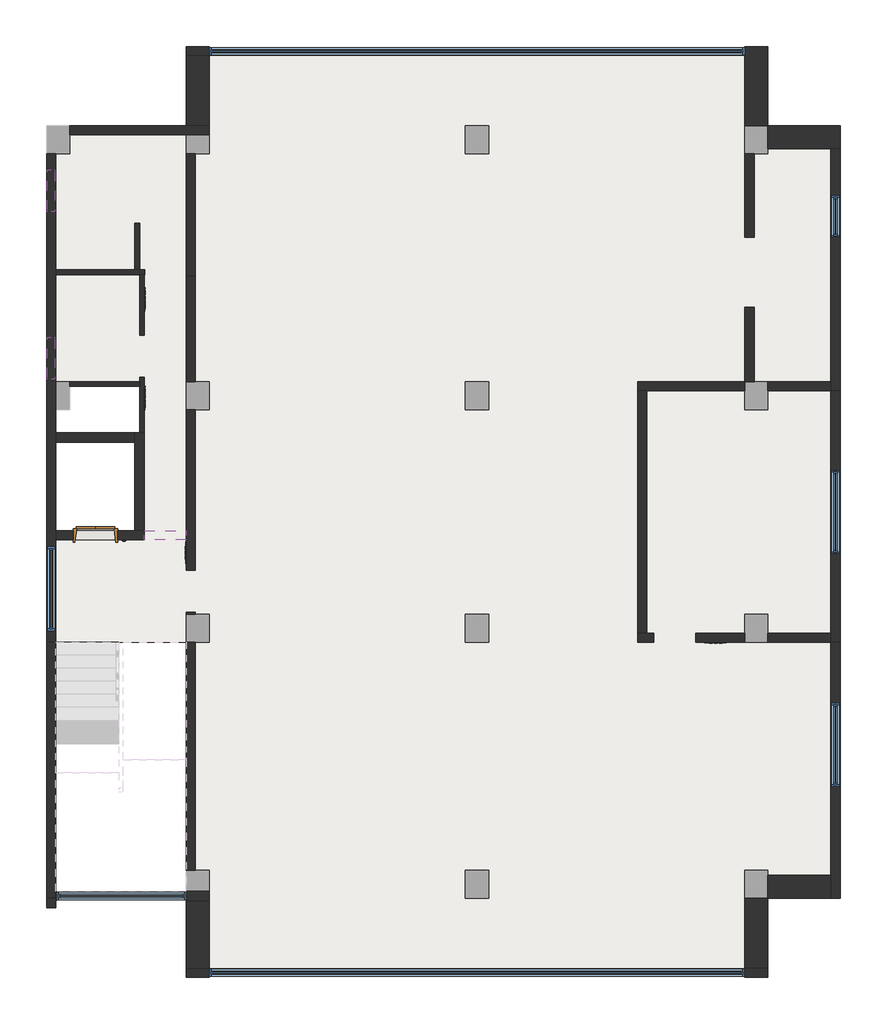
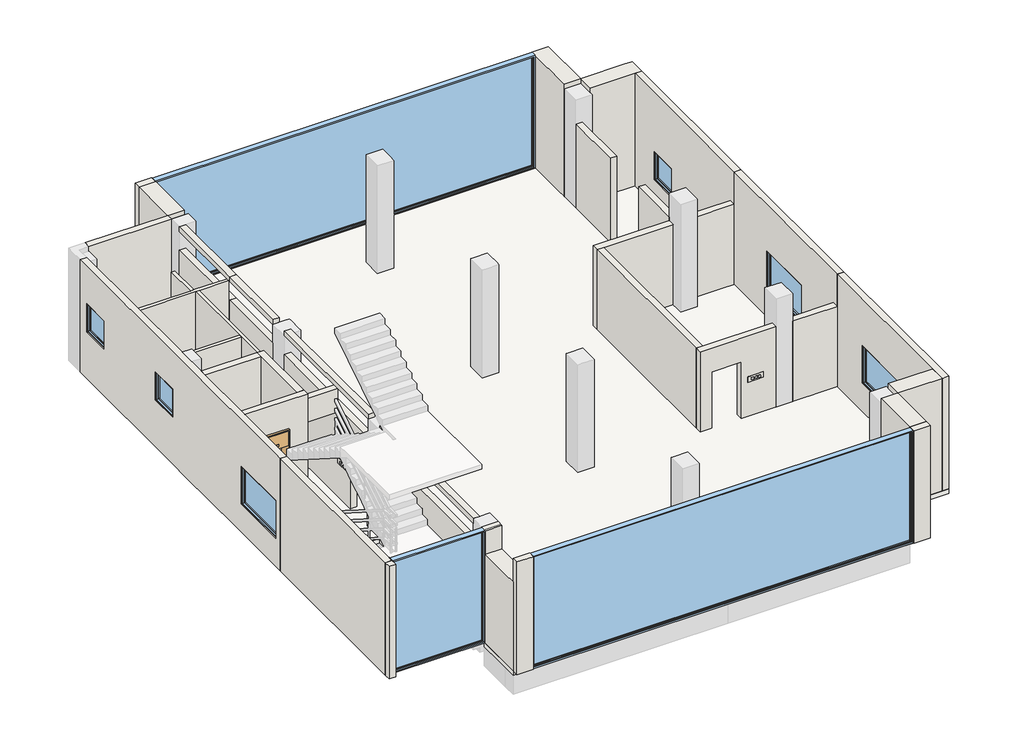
# One storey, part 1 of 3: 39 walls, 9 windows, 1 door, 1 slab.
"""IFC4 building model written with IfcOpenShell, lengths in millimetres."""

from ifc_helpers import new_model, si_unit, frame, origin, place, context, project, spatial, polyline, outline, extrude, faceted_brep, transform, mapped, element, save
from components import door_097e9757, window_16c43cb3, window_f2f41d25, window_07c90ac9, window_8a8d6591, window_3f7671e2

model = new_model("IFC4")

# Units and contexts
model_context = context("Model", 3, world=origin())
ifc_project = project(units=[si_unit("LENGTHUNIT", "METRE", prefix="MILLI")], contexts=[model_context])

# Site, building, storey
site = spatial("IfcSite", under=ifc_project)
building = spatial("IfcBuilding", under=site)
storey = spatial("IfcBuildingStorey", under=building, Name="3층", Elevation=7500.0)

# Door
placement = place(None, origin())
door_shape = door_097e9757(model_context)
element("IfcDoor", 1, ObjectType="XX111-승객용 엘리베이터 (다용도, 800KG) 상판 출입구800 : 엘리베이터 800", at=placement, inside=storey, context=model_context, shape_type="MappedRepresentation", body=[
    mapped(door_shape, transform((925.0, 7500.0, 7600.0), x_axis=(-1.0, 0.0, 0.0), y_axis=(0.0, -1.0, 0.0), z_axis=(0.0, 0.0, 1.0))),
])

# Slab
element("IfcSlab", 2, ObjectType="SL100-구조 바닥 150", at=placement, inside=storey, context=model_context, shape_type="Brep", body=[
    faceted_brep([(-50.0, 5200.0, 7350.0), (-50.0, 7400.0, 7350.0), (1850.0, 7400.0, 7350.0), (1850.0, 7600.0, 7350.0), (1850.0, 9700.0, 7350.0), (1750.0, 9700.0, 7350.0), (1750.0, 10700.0, 7350.0), (250.0, 10700.0, 7350.0), (250.0, 10800.0, 7350.0), (-50.0, 10800.0, 7350.0), (-50.0, 15700.0, 7350.0), (250.0, 15700.0, 7350.0), (250.0, 16100.0, 7350.0), (250.0, 16300.0, 7350.0), (2750.0, 16300.0, 7350.0), (2750.0, 15700.0, 7350.0), (3150.0, 15700.0, 7350.0), (3250.0, 15700.0, 7350.0), (3250.0, 15900.0, 7350.0), (3250.0, 16300.0, 7350.0), (2750.0, 17800.0, 7350.0), (3250.0, 17800.0, 7350.0), (8850.0, 17800.0, 7350.0), (14750.0, 17800.0, 7350.0), (15250.0, 17800.0, 7350.0), (15250.0, 16300.0, 7350.0), (14750.0, 16300.0, 7350.0), (14750.0, 15900.0, 7350.0), (14750.0, 15700.0, 7350.0), (15250.0, 15700.0, 7350.0), (16800.0, 16300.0, 7350.0), (16800.0, -300.0, 7350.0), (15250.0, -300.0, 7350.0), (15250.0, 300.0, 7350.0), (14850.0, 300.0, 7350.0), (14750.0, 300.0, 7350.0), (14750.0, 100.0, 7350.0), (14750.0, -300.0, 7350.0), (15250.0, -1800.0, 7350.0), (14750.0, -1800.0, 7350.0), (9250.0, -1800.0, 7350.0), (2750.0, -1800.0, 7350.0), (2750.0, -1400.0, 7350.0), (2750.0, -300.0, 7350.0), (3150.0, -300.0, 7350.0), (3250.0, -300.0, 7350.0), (3250.0, 100.0, 7350.0), (3250.0, 300.0, 7350.0), (3150.0, 300.0, 7350.0), (2750.0, 300.0, 7350.0), (2750.0, 5200.0, 7350.0), (3150.0, 5200.0, 7350.0), (3250.0, 5200.0, 7350.0), (3250.0, 5300.0, 7350.0), (3250.0, 5700.0, 7350.0), (3250.0, 5800.0, 7350.0), (3150.0, 5800.0, 7350.0), (2750.0, 5800.0, 7350.0), (2750.0, 10800.0, 7350.0), (2750.0, 10200.0, 7350.0), (3150.0, 10200.0, 7350.0), (3250.0, 10200.0, 7350.0), (3250.0, 10300.0, 7350.0), (3250.0, 10700.0, 7350.0), (3250.0, 10800.0, 7350.0), (3150.0, 10800.0, 7350.0), (8750.0, 300.0, 7350.0), (8750.0, 100.0, 7350.0), (8750.0, -300.0, 7350.0), (8850.0, -300.0, 7350.0), (9250.0, -300.0, 7350.0), (9250.0, 100.0, 7350.0), (9250.0, 300.0, 7350.0), (8850.0, 300.0, 7350.0), (8750.0, 5800.0, 7350.0), (8750.0, 5700.0, 7350.0), (8750.0, 5300.0, 7350.0), (8750.0, 5200.0, 7350.0), (8850.0, 5200.0, 7350.0), (9250.0, 5200.0, 7350.0), (9250.0, 5300.0, 7350.0), (9250.0, 5700.0, 7350.0), (9250.0, 5800.0, 7350.0), (8850.0, 5800.0, 7350.0), (14750.0, 5800.0, 7350.0), (14750.0, 5700.0, 7350.0), (14750.0, 5300.0, 7350.0), (14750.0, 5200.0, 7350.0), (14850.0, 5200.0, 7350.0), (15250.0, 5200.0, 7350.0), (15250.0, 5300.0, 7350.0), (15250.0, 5700.0, 7350.0), (15250.0, 5800.0, 7350.0), (8750.0, 10800.0, 7350.0), (8750.0, 10700.0, 7350.0), (8750.0, 10300.0, 7350.0), (8750.0, 10200.0, 7350.0), (8850.0, 10200.0, 7350.0), (9250.0, 10200.0, 7350.0), (9250.0, 10300.0, 7350.0), (9250.0, 10700.0, 7350.0), (9250.0, 10800.0, 7350.0), (8850.0, 10800.0, 7350.0), (14750.0, 10800.0, 7350.0), (14750.0, 10700.0, 7350.0), (14750.0, 10300.0, 7350.0), (14750.0, 10200.0, 7350.0), (15250.0, 10200.0, 7350.0), (15250.0, 10300.0, 7350.0), (15250.0, 10700.0, 7350.0), (15250.0, 10800.0, 7350.0), (8750.0, 16300.0, 7350.0), (8750.0, 15900.0, 7350.0), (8750.0, 15700.0, 7350.0), (8850.0, 15700.0, 7350.0), (9250.0, 15700.0, 7350.0), (9250.0, 15900.0, 7350.0), (9250.0, 16300.0, 7350.0), (8850.0, 16300.0, 7350.0), (-50.0, 7400.0, 7500.0), (-50.0, 5200.0, 7500.0), (2750.0, 5200.0, 7500.0), (2750.0, 5800.0, 7500.0), (3250.0, 5800.0, 7500.0), (3250.0, 5200.0, 7500.0), (2750.0, 300.0, 7500.0), (3250.0, 300.0, 7500.0), (3250.0, -300.0, 7500.0), (2750.0, -300.0, 7500.0), (2750.0, -1800.0, 7500.0), (15250.0, -1800.0, 7500.0), (15250.0, -300.0, 7500.0), (14750.0, -300.0, 7500.0), (14750.0, 200.0, 7500.0), (14750.0, 300.0, 7500.0), (15250.0, 300.0, 7500.0), (15250.0, 200.0, 7500.0), (16800.0, -300.0, 7500.0), (16800.0, 16300.0, 7500.0), (15250.0, 16300.0, 7500.0), (15250.0, 15700.0, 7500.0), (14750.0, 15700.0, 7500.0), (14750.0, 16300.0, 7500.0), (15250.0, 17800.0, 7500.0), (2750.0, 17800.0, 7500.0), (2750.0, 16300.0, 7500.0), (3250.0, 16300.0, 7500.0), (3250.0, 16100.0, 7500.0), (3250.0, 15700.0, 7500.0), (2750.0, 15700.0, 7500.0), (2750.0, 16100.0, 7500.0), (250.0, 16300.0, 7500.0), (250.0, 15700.0, 7500.0), (-50.0, 15700.0, 7500.0), (-50.0, 10800.0, 7500.0), (250.0, 10800.0, 7500.0), (250.0, 10700.0, 7500.0), (1750.0, 10700.0, 7500.0), (1750.0, 9700.0, 7500.0), (1850.0, 9700.0, 7500.0), (1850.0, 7600.0, 7500.0), (1850.0, 7400.0, 7500.0), (14750.0, 10200.0, 7500.0), (14750.0, 10800.0, 7500.0), (15250.0, 10800.0, 7500.0), (15250.0, 10200.0, 7500.0), (14750.0, 5200.0, 7500.0), (14750.0, 5800.0, 7500.0), (15250.0, 5800.0, 7500.0), (15250.0, 5200.0, 7500.0), (8750.0, 5200.0, 7500.0), (8750.0, 5800.0, 7500.0), (9250.0, 5800.0, 7500.0), (9250.0, 5200.0, 7500.0), (8750.0, -300.0, 7500.0), (8750.0, 300.0, 7500.0), (9250.0, 300.0, 7500.0), (9250.0, -300.0, 7500.0), (8750.0, 15700.0, 7500.0), (8750.0, 16300.0, 7500.0), (9250.0, 16300.0, 7500.0), (9250.0, 15700.0, 7500.0), (8750.0, 10200.0, 7500.0), (8750.0, 10800.0, 7500.0), (9250.0, 10800.0, 7500.0), (9250.0, 10200.0, 7500.0), (2750.0, 10200.0, 7500.0), (2750.0, 10800.0, 7500.0), (3250.0, 10800.0, 7500.0), (3250.0, 10200.0, 7500.0)], [[[0, 1, 2, 3, 4, 5, 6, 7, 8, 9, 10, 11, 12, 13, 14, 15, 16, 17, 18, 19, 14, 20, 21, 22, 23, 24, 25, 26, 27, 28, 29, 25, 30, 31, 32, 33, 34, 35, 36, 37, 32, 38, 39, 40, 41, 42, 43, 44, 45, 46, 47, 48, 49, 50, 51, 52, 53, 54, 55, 56, 57, 50], [58, 59, 60, 61, 62, 63, 64, 65], [66, 67, 68, 69, 70, 71, 72, 73], [74, 75, 76, 77, 78, 79, 80, 81, 82, 83], [84, 85, 86, 87, 88, 89, 90, 91, 92], [93, 94, 95, 96, 97, 98, 99, 100, 101, 102], [103, 104, 105, 106, 107, 108, 109, 110], [111, 112, 113, 114, 115, 116, 117, 118]], [[119, 120, 121, 122, 123, 124, 121, 125, 126, 127, 128, 129, 130, 131, 132, 133, 134, 135, 136, 131, 137, 138, 139, 140, 141, 142, 139, 143, 144, 145, 146, 147, 148, 149, 150, 145, 151, 152, 153, 154, 155, 156, 157, 158, 159, 160, 161], [162, 163, 164, 165], [166, 167, 168, 169], [170, 171, 172, 173], [174, 175, 176, 177], [178, 179, 180, 181], [182, 183, 184, 185], [186, 187, 188, 189]], [[1, 0, 120, 119]], [[145, 14, 13, 151]], [[0, 50, 121, 120]], [[20, 14, 145, 144]], [[24, 23, 22, 21, 20, 144, 143]], [[31, 30, 138, 137]], [[41, 40, 39, 38, 130, 129]], [[32, 31, 137, 131]], [[30, 25, 139, 138]], [[2, 1, 119, 161]], [[4, 3, 2, 161, 160, 159]], [[6, 157, 156, 7]], [[153, 10, 9, 154]], [[26, 142, 141, 28, 27]], [[142, 26, 25, 139]], [[29, 140, 139, 25]], [[140, 29, 28, 141]], [[103, 163, 162, 106, 105, 104]], [[163, 103, 110, 164]], [[164, 110, 109, 108, 107, 165]], [[165, 107, 106, 162]], [[84, 167, 166, 87, 86, 85]], [[167, 84, 92, 168]], [[168, 92, 91, 90, 89, 169]], [[169, 89, 88, 87, 166]], [[132, 37, 36, 35, 134, 133]], [[33, 135, 134, 35, 34]], [[135, 33, 32, 131, 136]], [[37, 132, 131, 32]], [[74, 171, 170, 77, 76, 75]], [[171, 74, 83, 82, 172]], [[172, 82, 81, 80, 79, 173]], [[173, 79, 78, 77, 170]], [[66, 175, 174, 68, 67]], [[175, 66, 73, 72, 176]], [[176, 72, 71, 70, 177]], [[177, 70, 69, 68, 174]], [[111, 179, 178, 113, 112]], [[179, 111, 118, 117, 180]], [[180, 117, 116, 115, 181]], [[181, 115, 114, 113, 178]], [[93, 183, 182, 96, 95, 94]], [[183, 93, 102, 101, 184]], [[184, 101, 100, 99, 98, 185]], [[185, 98, 97, 96, 182]], [[47, 126, 125, 49, 48]], [[126, 47, 46, 45, 127]], [[127, 45, 44, 43, 128]], [[57, 122, 121, 50]], [[55, 123, 122, 57, 56]], [[123, 55, 54, 53, 52, 124]], [[124, 52, 51, 50, 121]], [[58, 187, 186, 59]], [[187, 58, 65, 64, 188]], [[188, 64, 63, 62, 61, 189]], [[189, 61, 60, 59, 186]], [[149, 15, 14, 145, 150]], [[19, 146, 145, 14]], [[146, 19, 18, 17, 148, 147]], [[15, 149, 148, 17, 16]], [[152, 11, 10, 153]], [[8, 155, 154, 9]], [[41, 129, 128, 43, 42]], [[121, 50, 49, 125]], [[38, 32, 131, 130]], [[5, 4, 159, 158]], [[6, 5, 158, 157]], [[11, 152, 151, 13, 12]], [[155, 8, 7, 156]], [[25, 24, 143, 139]]]),
])

# Walls
element("IfcWall", 3, ObjectType="WA100-구조 벽 500", at=placement, inside=storey, context=model_context, shape_type="Brep", body=[
    faceted_brep([(2750.0, -350.0, 7500.0), (2750.0, -1800.0, 7500.0), (2750.0, -1800.0, 10350.0), (2750.0, -1400.0, 10350.0), (2750.0, -350.0, 10350.0), (3250.0, -350.0, 7500.0), (3250.0, -350.0, 10350.0), (3250.0, -1800.0, 10350.0), (3250.0, -1800.0, 7500.0)], [[[0, 1, 2, 3, 4]], [[5, 6, 7, 8]], [[1, 0, 5, 8]], [[4, 3, 2, 7, 6]], [[2, 1, 8, 7]], [[0, 4, 6, 5]]]),
])
element("IfcWall", 4, ObjectType="WA100-구조 벽 500", at=placement, inside=storey, context=model_context, shape_type="Brep", body=[
    faceted_brep([(14750.0, -1800.0, 7500.0), (14750.0, -1800.0, 10350.0), (14750.0, -1800.0, 10950.0), (14750.0, -1800.0, 11100.0), (14750.0, -300.0, 11100.0), (14750.0, -300.0, 10950.0), (14750.0, -300.0, 7500.0), (15250.0, -1800.0, 11100.0), (15250.0, -1800.0, 7500.0), (15250.0, -300.0, 7500.0), (15250.0, -300.0, 10950.0), (15250.0, -300.0, 11100.0)], [[[0, 1, 2, 3, 4, 5, 6]], [[7, 8, 9, 10, 11]], [[8, 0, 6, 9]], [[3, 7, 11, 4]], [[6, 5, 4, 11, 10, 9]], [[3, 2, 1, 0, 8, 7]]]),
])
element("IfcWall", 5, ObjectType="WA100-구조 벽 200", at=placement, inside=storey, context=model_context, shape_type="Brep", body=[
    faceted_brep([(16800.0, -300.0, 7500.0), (16800.0, 5200.0, 7500.0), (16800.0, 5200.0, 11100.0), (16800.0, -300.0, 11100.0), (16800.0, 3900.0, 9600.0), (16800.0, 3900.0, 8400.0), (16800.0, 2100.0, 8400.0), (16800.0, 2100.0, 9600.0), (16600.0, -300.0, 7500.0), (16600.0, -300.0, 11100.0), (16600.0, 200.0, 11100.0), (16600.0, 5200.0, 11100.0), (16600.0, 5200.0, 7500.0), (16600.0, 200.0, 7500.0), (16600.0, 3900.0, 9600.0), (16600.0, 2100.0, 9600.0), (16600.0, 2100.0, 8400.0), (16600.0, 3900.0, 8400.0)], [[[0, 1, 2, 3], [4, 5, 6, 7]], [[8, 9, 10, 11, 12, 13], [14, 15, 16, 17]], [[1, 0, 8, 13, 12]], [[3, 2, 11, 10, 9]], [[0, 3, 9, 8]], [[5, 4, 14, 17]], [[6, 5, 17, 16]], [[7, 6, 16, 15]], [[4, 7, 15, 14]], [[1, 12, 11, 2]]]),
])
element("IfcWall", 6, ObjectType="WA100-구조 벽 500", at=placement, inside=storey, context=model_context, shape_type="Brep", body=[
    faceted_brep([(15250.0, -300.0, 7500.0), (16600.0, -300.0, 7500.0), (16600.0, -300.0, 11100.0), (15250.0, -300.0, 11100.0), (15250.0, -300.0, 10950.0), (15250.0, 200.0, 7500.0), (15250.0, 200.0, 11100.0), (16600.0, 200.0, 11100.0), (16600.0, 200.0, 7500.0)], [[[0, 1, 2, 3, 4]], [[5, 6, 7, 8]], [[1, 0, 5, 8]], [[3, 2, 7, 6]], [[2, 1, 8, 7]], [[0, 4, 3, 6, 5]]]),
])
element("IfcWall", 7, ObjectType="WA100-구조 벽 500", at=placement, inside=storey, context=model_context, shape_type="Brep", body=[
    faceted_brep([(3250.0, 16300.0, 7500.0), (3250.0, 17800.0, 7500.0), (3250.0, 17800.0, 10950.0), (3250.0, 17800.0, 11100.0), (3250.0, 16300.0, 11100.0), (3250.0, 16300.0, 10950.0), (2750.0, 16300.0, 7500.0), (2750.0, 16300.0, 11100.0), (2750.0, 17800.0, 11100.0), (2750.0, 17800.0, 7500.0)], [[[0, 1, 2, 3, 4, 5]], [[6, 7, 8, 9]], [[1, 0, 6, 9]], [[3, 2, 1, 9, 8]], [[4, 3, 8, 7]], [[0, 5, 4, 7, 6]]]),
])
element("IfcWall", 8, ObjectType="WA100-구조 벽 500", at=placement, inside=storey, context=model_context, shape_type="Brep", body=[
    faceted_brep([(15250.0, 18000.0, 7500.0), (15250.0, 18000.0, 11100.0), (15250.0, 16300.0, 11100.0), (15250.0, 16300.0, 10950.0), (15250.0, 16300.0, 7500.0), (15250.0, 17800.0, 7500.0), (14750.0, 18000.0, 11100.0), (14750.0, 18000.0, 7500.0), (14750.0, 17800.0, 7500.0), (14750.0, 16300.0, 7500.0), (14750.0, 16300.0, 10950.0), (14750.0, 16300.0, 11100.0)], [[[0, 1, 2, 3, 4, 5]], [[6, 7, 8, 9, 10, 11]], [[7, 0, 5, 4, 9, 8]], [[1, 0, 7, 6]], [[1, 6, 11, 2]], [[4, 3, 2, 11, 10, 9]]]),
])
element("IfcWall", 9, ObjectType="WA100-구조 벽 500", at=placement, inside=storey, context=model_context, shape_type="Brep", body=[
    faceted_brep([(15250.0, 15800.0, 11100.0), (15250.0, 15800.0, 7500.0), (16600.0, 15800.0, 7500.0), (16800.0, 15800.0, 7500.0), (16800.0, 15800.0, 11100.0), (16600.0, 15800.0, 11100.0), (15250.0, 16300.0, 7500.0), (15250.0, 16300.0, 10950.0), (15250.0, 16300.0, 11100.0), (16600.0, 16300.0, 11100.0), (16800.0, 16300.0, 11100.0), (16800.0, 16300.0, 7500.0)], [[[0, 1, 2, 3, 4, 5]], [[6, 7, 8, 9, 10, 11]], [[3, 2, 1, 6, 11]], [[0, 5, 4, 10, 9, 8]], [[0, 8, 7, 6, 1]], [[4, 3, 11, 10]]]),
])
element("IfcWall", 10, ObjectType="WA100-구조 벽 200", at=placement, inside=storey, context=model_context, shape_type="SweptSolid", body=[
    extrude(outline(polyline([(-50.0, 5200.0), (-50.0, -300.0), (-250.0, -300.0), (-250.0, 5200.0), (-50.0, 5200.0)])), frame((0.0, 0.0, 7500.0), z_axis=(0.0, 0.0, 1.0), x_axis=(1.0, 0.0, 0.0)), (0.0, 0.0, 1.0), 3600.0),
])
element("IfcWall", 11, ObjectType="WA100-구조 벽 200", at=placement, inside=storey, context=model_context, shape_type="Brep", body=[
    faceted_brep([(-50.0, 7400.0, 7500.0), (1850.0, 7400.0, 7500.0), (1850.0, 7400.0, 10200.0), (1850.0, 7400.0, 10950.0), (1850.0, 7400.0, 11100.0), (-50.0, 7400.0, 11100.0), (-50.0, 7400.0, 10950.0), (1275.0, 7400.0, 10200.0), (1275.0, 7400.0, 7600.0), (325.0, 7400.0, 7600.0), (325.0, 7400.0, 10200.0), (1850.0, 7600.0, 7500.0), (1650.0, 7600.0, 7500.0), (-50.0, 7600.0, 7500.0), (-50.0, 7600.0, 11100.0), (1650.0, 7600.0, 11100.0), (1850.0, 7600.0, 11100.0), (1850.0, 7600.0, 10950.0), (1850.0, 7600.0, 10200.0), (1275.0, 7600.0, 7600.0), (1275.0, 7600.0, 10200.0), (325.0, 7600.0, 10200.0), (325.0, 7600.0, 7600.0)], [[[0, 1, 2, 3, 4, 5, 6], [7, 8, 9, 10]], [[11, 12, 13, 14, 15, 16, 17, 18], [19, 20, 21, 22]], [[1, 0, 13, 12, 11]], [[5, 4, 16, 15, 14]], [[7, 20, 19, 8]], [[8, 19, 22, 9]], [[21, 10, 9, 22]], [[20, 7, 10, 21]], [[5, 14, 13, 0, 6]], [[1, 11, 18, 17, 16, 4, 3, 2]]]),
])
element("IfcWall", 12, ObjectType="WA700-수장 벽 100", at=placement, inside=storey, context=model_context, shape_type="SweptSolid", body=[
    extrude(outline(polyline([(1750.0, 10700.0), (250.0, 10700.0), (250.0, 10800.0), (1750.0, 10800.0), (1750.0, 10700.0)])), frame((0.0, 0.0, 7500.0), z_axis=(0.0, 0.0, 1.0), x_axis=(1.0, 0.0, 0.0)), (0.0, 0.0, 1.0), 3450.0),
])
element("IfcWall", 13, ObjectType="WA100-구조 벽 200", at=placement, inside=storey, context=model_context, shape_type="Brep", body=[
    faceted_brep([(1850.0, 7600.0, 11100.0), (1850.0, 7600.0, 7500.0), (1850.0, 9700.0, 7500.0), (1850.0, 9700.0, 11100.0), (1650.0, 7600.0, 7500.0), (1650.0, 7600.0, 11100.0), (1650.0, 9500.0, 11100.0), (1650.0, 9700.0, 11100.0), (1650.0, 9700.0, 7500.0), (1650.0, 9500.0, 7500.0)], [[[0, 1, 2, 3]], [[4, 5, 6, 7, 8, 9]], [[2, 1, 4, 9, 8]], [[0, 3, 7, 6, 5]], [[2, 8, 7, 3]], [[0, 5, 4, 1]]]),
])
element("IfcWall", 14, ObjectType="WA100-구조 벽 200", at=placement, inside=storey, context=model_context, shape_type="SweptSolid", body=[
    extrude(outline(polyline([(1650.0, 9500.0), (-50.0, 9500.0), (-50.0, 9700.0), (1650.0, 9700.0), (1650.0, 9500.0)])), frame((0.0, 0.0, 7500.0), z_axis=(0.0, 0.0, 1.0), x_axis=(1.0, 0.0, 0.0)), (0.0, 0.0, 1.0), 3600.0),
])
element("IfcWall", 15, ObjectType="WA700-수장 벽 100", at=placement, inside=storey, context=model_context, shape_type="Brep", body=[
    faceted_brep([(1750.0, 9700.0, 7500.0), (1750.0, 9700.0, 10950.0), (1750.0, 10700.0, 10950.0), (1750.0, 10800.0, 10950.0), (1750.0, 13100.0, 10950.0), (1750.0, 13100.0, 7500.0), (1750.0, 11795.0, 7500.0), (1750.0, 11795.0, 9300.0), (1750.0, 10895.0, 9300.0), (1750.0, 10895.0, 7500.0), (1750.0, 10800.0, 7500.0), (1750.0, 10700.0, 7500.0), (1850.0, 13100.0, 10950.0), (1850.0, 9700.0, 10950.0), (1850.0, 9700.0, 7500.0), (1850.0, 10895.0, 7500.0), (1850.0, 10895.0, 9300.0), (1850.0, 11795.0, 9300.0), (1850.0, 11795.0, 7500.0), (1850.0, 13100.0, 7500.0)], [[[0, 1, 2, 3, 4, 5, 6, 7, 8, 9, 10, 11]], [[12, 13, 14, 15, 16, 17, 18, 19]], [[14, 0, 11, 10, 9, 15]], [[5, 19, 18, 6]], [[1, 0, 14, 13]], [[5, 4, 12, 19]], [[13, 12, 4, 3, 2, 1]], [[8, 16, 15, 9]], [[16, 8, 7, 17]], [[17, 7, 6, 18]]]),
])
element("IfcWall", 16, ObjectType="WA700-수장 벽 100", at=placement, inside=storey, context=model_context, shape_type="Brep", body=[
    faceted_brep([(-50.0, 13100.0, 10950.0), (-50.0, 13100.0, 7500.0), (1750.0, 13100.0, 7500.0), (1850.0, 13100.0, 7500.0), (1855.0, 13100.0, 7500.0), (1855.0, 13100.0, 9300.0), (2750.0, 13100.0, 9300.0), (2750.0, 13100.0, 10950.0), (1850.0, 13100.0, 10950.0), (1750.0, 13100.0, 10950.0), (-50.0, 13200.0, 7500.0), (-50.0, 13200.0, 10950.0), (1650.0, 13200.0, 10950.0), (1750.0, 13200.0, 10950.0), (2750.0, 13200.0, 10950.0), (2750.0, 13200.0, 9300.0), (1855.0, 13200.0, 9300.0), (1855.0, 13200.0, 7500.0), (1750.0, 13200.0, 7500.0), (1650.0, 13200.0, 7500.0)], [[[0, 1, 2, 3, 4, 5, 6, 7, 8, 9]], [[10, 11, 12, 13, 14, 15, 16, 17, 18, 19]], [[1, 10, 19, 18, 17, 4, 3, 2]], [[1, 0, 11, 10]], [[14, 7, 6, 15]], [[0, 9, 8, 7, 14, 13, 12, 11]], [[5, 16, 15, 6]], [[16, 5, 4, 17]]]),
])
element("IfcWall", 17, ObjectType="WA700-수장 벽 100", at=placement, inside=storey, context=model_context, shape_type="SweptSolid", body=[
    extrude(outline(polyline([(1750.0, 14200.0), (1750.0, 13200.0), (1650.0, 13200.0), (1650.0, 14200.0), (1750.0, 14200.0)])), frame((0.0, 0.0, 7500.0), z_axis=(0.0, 0.0, 1.0), x_axis=(1.0, 0.0, 0.0)), (0.0, 0.0, 1.0), 3450.0),
])
element("IfcWall", 18, ObjectType="WA100-구조 벽 200", at=placement, inside=storey, context=model_context, shape_type="SweptSolid", body=[
    extrude(outline(polyline([(2950.0, 10200.0), (2950.0, 5800.0), (2750.0, 5800.0), (2750.0, 10200.0), (2950.0, 10200.0)])), frame((0.0, 0.0, 10950.0), z_axis=(0.0, 0.0, 1.0), x_axis=(1.0, 0.0, 0.0)), (0.0, 0.0, 1.0), 150.0),
    extrude(outline(polyline([(5845.0, 7500.0), (5800.0, 7500.0), (5800.0, 10350.0), (10200.0, 10350.0), (10200.0, 7500.0), (6745.0, 7500.0), (6745.0, 9300.0), (5845.0, 9300.0), (5845.0, 7500.0)])), frame((2750.0, 0.0, 0.0), z_axis=(1.0, 0.0, 0.0), x_axis=(0.0, 1.0, 0.0)), (0.0, 0.0, 1.0), 200.0),
])
element("IfcWall", 19, ObjectType="WA100-구조 벽 200", at=placement, inside=storey, context=model_context, shape_type="SweptSolid", body=[
    extrude(outline(polyline([(2950.0, 5200.0), (2950.0, 300.0), (2750.0, 300.0), (2750.0, 5200.0), (2950.0, 5200.0)])), frame((0.0, 0.0, 7500.0), z_axis=(0.0, 0.0, 1.0), x_axis=(1.0, 0.0, 0.0)), (0.0, 0.0, 1.0), 2850.0),
    extrude(outline(polyline([(2950.0, 5200.0), (2950.0, 300.0), (2750.0, 300.0), (2750.0, 5200.0), (2950.0, 5200.0)])), frame((0.0, 0.0, 10950.0), z_axis=(0.0, 0.0, 1.0), x_axis=(1.0, 0.0, 0.0)), (0.0, 0.0, 1.0), 150.0),
])
element("IfcWall", 20, ObjectType="WA100-구조 벽 200", at=placement, inside=storey, context=model_context, shape_type="Brep", body=[
    faceted_brep([(2750.0, 13060.0, 11100.0), (2750.0, 15700.0, 11100.0), (2750.0, 15700.0, 10950.0), (2750.0, 13060.0, 10950.0), (2950.0, 15700.0, 11100.0), (2950.0, 13060.0, 11100.0), (2950.0, 13060.0, 10950.0), (2950.0, 15700.0, 10950.0)], [[[0, 1, 2, 3]], [[4, 5, 6, 7]], [[5, 0, 3, 6]], [[1, 0, 5, 4]], [[1, 4, 7, 2]], [[3, 2, 7, 6]]]),
    faceted_brep([(2750.0, 13100.0, 7500.0), (2750.0, 13060.0, 7500.0), (2750.0, 13060.0, 10350.0), (2750.0, 15700.0, 10350.0), (2750.0, 15700.0, 7500.0), (2750.0, 13200.0, 7500.0), (2750.0, 13200.0, 9300.0), (2750.0, 13100.0, 9300.0), (2950.0, 13060.0, 7500.0), (2950.0, 15700.0, 7500.0), (2950.0, 15700.0, 10350.0), (2950.0, 13060.0, 10350.0), (2755.0, 13100.0, 7500.0), (2755.0, 13200.0, 7500.0), (2755.0, 13100.0, 9300.0), (2755.0, 13200.0, 9300.0)], [[[0, 1, 2, 3, 4, 5, 6, 7]], [[8, 9, 10, 11]], [[9, 8, 1, 0, 12, 13, 5, 4]], [[1, 8, 11, 2]], [[9, 4, 3, 10]], [[3, 2, 11, 10]], [[14, 12, 0, 7]], [[13, 15, 6, 5]], [[12, 14, 15, 13]], [[15, 14, 7, 6]]]),
])
element("IfcWall", 21, ObjectType="WA100-구조 벽 200", at=placement, inside=storey, context=model_context, shape_type="Brep", body=[
    faceted_brep([(250.0, 16100.0, 7500.0), (2750.0, 16100.0, 7500.0), (3250.0, 16100.0, 7500.0), (3250.0, 16100.0, 10950.0), (2750.0, 16100.0, 10950.0), (2750.0, 16100.0, 11100.0), (250.0, 16100.0, 11100.0), (250.0, 16100.0, 10950.0), (3250.0, 16300.0, 7500.0), (2750.0, 16300.0, 7500.0), (250.0, 16300.0, 7500.0), (250.0, 16300.0, 11100.0), (2750.0, 16300.0, 11100.0), (2750.0, 16300.0, 10950.0), (3250.0, 16300.0, 10950.0), (3250.0, 16300.0, 10350.0)], [[[0, 1, 2, 3, 4, 5, 6, 7]], [[8, 9, 10, 11, 12, 13, 14, 15]], [[2, 1, 0, 10, 9, 8]], [[11, 6, 5, 12]], [[11, 10, 0, 7, 6]], [[13, 4, 3, 14]], [[2, 8, 15, 14, 3]], [[4, 13, 12, 5]]]),
])
element("IfcWall", 22, ObjectType="WA100-구조 벽 200", at=placement, inside=storey, context=model_context, shape_type="SweptSolid", body=[
    extrude(outline(polyline([(1850.0, 7600.0), (2750.0, 7600.0), (2750.0, 7400.0), (1850.0, 7400.0), (1850.0, 7600.0)])), frame((0.0, 0.0, 10200.0), z_axis=(0.0, 0.0, 1.0), x_axis=(1.0, 0.0, 0.0)), (0.0, 0.0, 1.0), 750.0),
])
element("IfcWall", 23, ObjectType="WA100-구조 벽 200", at=placement, inside=storey, context=model_context, shape_type="Brep", body=[
    faceted_brep([(-50.0, -300.0, 7500.0), (-250.0, -300.0, 7500.0), (-250.0, -300.0, 11100.0), (-50.0, -300.0, 11100.0), (-50.0, -500.0, 7500.0), (-50.0, -500.0, 11100.0), (-250.0, -500.0, 11100.0), (-250.0, -500.0, 7500.0), (-50.0, -350.0, 7500.0), (-50.0, -350.0, 11100.0)], [[[0, 1, 2, 3]], [[4, 5, 6, 7]], [[1, 0, 8, 4, 7]], [[2, 1, 7, 6]], [[3, 2, 6, 5, 9]], [[0, 3, 9, 5, 4, 8]]]),
])
element("IfcWall", 24, ObjectType="WA100-구조 벽 200", at=placement, inside=storey, context=model_context, shape_type="SweptSolid", body=[
    extrude(outline(polyline([(2750.0, -2000.0), (2750.0, -1800.0), (3250.0, -1800.0), (3250.0, -2000.0), (2750.0, -2000.0)])), frame((0.0, 0.0, 7500.0), z_axis=(0.0, 0.0, 1.0), x_axis=(1.0, 0.0, 0.0)), (0.0, 0.0, 1.0), 3600.0),
    extrude(outline(polyline([(15250.0, -1800.0), (15250.0, -2000.0), (14750.0, -2000.0), (14750.0, -1800.0), (15250.0, -1800.0)])), frame((0.0, 0.0, 7500.0), z_axis=(0.0, 0.0, 1.0), x_axis=(1.0, 0.0, 0.0)), (0.0, 0.0, 1.0), 3600.0),
])
element("IfcWall", 25, ObjectType="WA100-구조 벽 200", at=placement, inside=storey, context=model_context, shape_type="SweptSolid", body=[
    extrude(outline(polyline([(2750.0, 17800.0), (2750.0, 18000.0), (3250.0, 18000.0), (3250.0, 17800.0), (2750.0, 17800.0)])), frame((0.0, 0.0, 7500.0), z_axis=(0.0, 0.0, 1.0), x_axis=(1.0, 0.0, 0.0)), (0.0, 0.0, 1.0), 3600.0),
])
element("IfcWall", 26, ObjectType="WA100-구조 벽 200", at=placement, inside=storey, context=model_context, shape_type="SweptSolid", body=[
    extrude(outline(polyline([(15250.0, 10800.0), (16600.0, 10800.0), (16600.0, 10600.0), (15250.0, 10600.0), (15250.0, 10800.0)])), frame((0.0, 0.0, 7500.0), z_axis=(0.0, 0.0, 1.0), x_axis=(1.0, 0.0, 0.0)), (0.0, 0.0, 1.0), 2568.0),
])
element("IfcWall", 27, ObjectType="WA100-구조 벽 200", at=placement, inside=storey, context=model_context, shape_type="Brep", body=[
    faceted_brep([(12450.0000098, 10800.0, 7500.0), (12450.0000098, 10800.0, 10068.0), (14750.0, 10800.0, 10068.0), (14750.0, 10800.0, 7500.0), (12450.0000098, 10600.0, 10068.0), (12450.0000098, 10600.0, 7500.0), (12650.0000098, 10600.0, 7500.0), (14750.0, 10600.0, 7500.0), (14750.0, 10600.0, 10068.0), (12650.0000098, 10600.0, 10068.0)], [[[0, 1, 2, 3]], [[4, 5, 6, 7, 8, 9]], [[5, 0, 3, 7, 6]], [[1, 4, 9, 8, 2]], [[1, 0, 5, 4]], [[3, 2, 8, 7]]]),
])
element("IfcWall", 28, ObjectType="WA100-구조 벽 200", at=placement, inside=storey, context=model_context, shape_type="SweptSolid", body=[
    extrude(outline(polyline([(12450.0000098, 5400.0), (12450.0000098, 10600.0), (12650.0000098, 10600.0), (12650.0000098, 5400.0), (12450.0000098, 5400.0)])), frame((0.0, 0.0, 7500.0), z_axis=(0.0, 0.0, 1.0), x_axis=(1.0, 0.0, 0.0)), (0.0, 0.0, 1.0), 2568.0),
])
element("IfcWall", 29, ObjectType="WA100-구조 벽 200", at=placement, inside=storey, context=model_context, shape_type="SweptSolid", body=[
    extrude(outline(polyline([(15250.0, 5400.0), (16600.0, 5400.0), (16600.0, 5200.0), (15250.0, 5200.0), (15250.0, 5400.0)])), frame((0.0, 0.0, 7500.0), z_axis=(0.0, 0.0, 1.0), x_axis=(1.0, 0.0, 0.0)), (0.0, 0.0, 1.0), 2568.0),
])
element("IfcWall", 30, ObjectType="WA100-구조 벽 200", at=placement, inside=storey, context=model_context, shape_type="Brep", body=[
    faceted_brep([(12450.0000098, 5400.0, 10068.0), (12650.0000098, 5400.0, 10068.0), (14750.0, 5400.0, 10068.0), (14750.0, 5400.0, 7500.0), (13695.0000098, 5400.0, 7500.0), (13695.0000098, 5400.0, 9300.0), (12795.0000098, 5400.0, 9300.0), (12795.0000098, 5400.0, 7500.0), (12650.0000098, 5400.0, 7500.0), (12450.0000098, 5400.0, 7500.0), (14750.0, 5200.0, 10068.0), (12450.0000098, 5200.0, 10068.0), (12450.0000098, 5200.0, 7500.0), (12795.0000098, 5200.0, 7500.0), (12795.0000098, 5200.0, 9300.0), (13695.0000098, 5200.0, 9300.0), (13695.0000098, 5200.0, 7500.0), (14750.0, 5200.0, 7500.0)], [[[0, 1, 2, 3, 4, 5, 6, 7, 8, 9]], [[10, 11, 12, 13, 14, 15, 16, 17]], [[3, 17, 16, 4]], [[12, 9, 8, 7, 13]], [[2, 1, 0, 11, 10]], [[3, 2, 10, 17]], [[0, 9, 12, 11]], [[6, 14, 13, 7]], [[14, 6, 5, 15]], [[15, 5, 4, 16]]]),
])
element("IfcWall", 31, ObjectType="WA100-구조 벽 200", at=placement, inside=storey, context=model_context, shape_type="SweptSolid", body=[
    extrude(outline(polyline([(14950.0, 13900.0), (14750.0, 13900.0), (14750.0, 15700.0), (14950.0, 15700.0), (14950.0, 13900.0)])), frame((0.0, 0.0, 7500.0), z_axis=(0.0, 0.0, 1.0), x_axis=(1.0, 0.0, 0.0)), (0.0, 0.0, 1.0), 2682.0),
])
element("IfcWall", 32, ObjectType="WA100-구조 벽 200", at=placement, inside=storey, context=model_context, shape_type="SweptSolid", body=[
    extrude(outline(polyline([(14750.0, 10800.0), (14750.0, 12400.0), (14950.0, 12400.0), (14950.0, 10800.0), (14750.0, 10800.0)])), frame((0.0, 0.0, 7500.0), z_axis=(0.0, 0.0, 1.0), x_axis=(1.0, 0.0, 0.0)), (0.0, 0.0, 1.0), 2682.0),
])
element("IfcWall", 33, ObjectType="A-두겁석-T10", at=placement, inside=storey, context=model_context, shape_type="SweptSolid", body=[
    extrude(outline(polyline([(1860.0, 10662.7770914), (1860.0, 10187.7770914), (1850.0, 10187.7770914), (1850.0, 10662.7770914), (1860.0, 10662.7770914)])), frame((0.0, 0.0, 8600.0), z_axis=(0.0, 0.0, 1.0), x_axis=(1.0, 0.0, 0.0)), (0.0, 0.0, 1.0), 170.0),
])
element("IfcWall", 34, ObjectType="A-두겁석-T10", at=placement, inside=storey, context=model_context, shape_type="SweptSolid", body=[
    extrude(outline(polyline([(1860.0, 12782.7770914), (1860.0, 12307.7770914), (1850.0, 12307.7770914), (1850.0, 12782.7770914), (1860.0, 12782.7770914)])), frame((0.0, 0.0, 8600.0), z_axis=(0.0, 0.0, 1.0), x_axis=(1.0, 0.0, 0.0)), (0.0, 0.0, 1.0), 170.0),
])
element("IfcWall", 35, ObjectType="A-두겁석-T10", at=placement, inside=storey, context=model_context, shape_type="SweptSolid", body=[
    extrude(outline(polyline([(2750.0, 7361.0810174), (2750.0, 6886.0810174), (2740.0, 6886.0810174), (2740.0, 7361.0810174), (2750.0, 7361.0810174)])), frame((0.0, 0.0, 8600.0), z_axis=(0.0, 0.0, 1.0), x_axis=(1.0, 0.0, 0.0)), (0.0, 0.0, 1.0), 170.0),
])
element("IfcWall", 36, ObjectType="A-두겁석-T10", at=placement, inside=storey, context=model_context, shape_type="SweptSolid", body=[
    extrude(outline(polyline([(13883.1130498, 5200.0), (14358.1130498, 5200.0), (14358.1130498, 5190.0), (13883.1130498, 5190.0), (13883.1130498, 5200.0)])), frame((0.0, 0.0, 8600.0), z_axis=(0.0, 0.0, 1.0), x_axis=(1.0, 0.0, 0.0)), (0.0, 0.0, 1.0), 170.0),
])
element("IfcWall", 37, ObjectType="WA100-구조 벽 200", at=placement, inside=storey, context=model_context, shape_type="Brep", body=[
    faceted_brep([(-50.0, -350.0, 11100.0), (-50.0, -350.0, 7500.0), (-39.5727509, -350.0, 7500.0), (-39.5727509, -350.0, 11100.0), (-50.0, -150.0, 7500.0), (-50.0, -150.0, 11100.0), (-39.5727509, -150.0, 11100.0), (-39.5727509, -150.0, 7500.0), (-50.0, -300.0, 7500.0), (-50.0, -300.0, 11100.0)], [[[0, 1, 2, 3]], [[4, 5, 6, 7]], [[1, 8, 4, 7, 2]], [[5, 9, 0, 3, 6]], [[4, 8, 1, 0, 9, 5]], [[3, 2, 7, 6]]]),
    faceted_brep([(3250.0, -350.0, 7500.0), (3250.0, -350.0, 11100.0), (2760.4272491, -350.0, 11100.0), (2760.4272491, -350.0, 7500.0), (3250.0, -150.0, 11100.0), (3250.0, -150.0, 7500.0), (2760.4272491, -150.0, 7500.0), (2760.4272491, -150.0, 11100.0)], [[[0, 1, 2, 3]], [[4, 5, 6, 7]], [[5, 0, 3, 6]], [[1, 4, 7, 2]], [[1, 0, 5, 4]], [[3, 2, 7, 6]]]),
])
element("IfcWall", 38, ObjectType="WA100-구조 벽 200", at=placement, inside=storey, context=model_context, shape_type="Brep", body=[
    faceted_brep([(-50.0, 5200.0, 7500.0), (-50.0, 7400.0, 7500.0), (-50.0, 7600.0, 7500.0), (-50.0, 9500.0, 7500.0), (-50.0, 9700.0, 7500.0), (-50.0, 10200.0, 7500.0), (-50.0, 10800.0, 7500.0), (-50.0, 15700.0, 7500.0), (-50.0, 15700.0, 10950.0), (-50.0, 15700.0, 11100.0), (-50.0, 10700.0, 11100.0), (-50.0, 10200.0, 11100.0), (-50.0, 9700.0, 11100.0), (-50.0, 9500.0, 11100.0), (-50.0, 7600.0, 11100.0), (-50.0, 7400.0, 11100.0), (-50.0, 5200.0, 11100.0), (-50.0, 15350.0, 9900.0), (-50.0, 15350.0, 9000.0), (-50.0, 14450.0, 9000.0), (-50.0, 14450.0, 9900.0), (-50.0, 7250.0, 9600.0), (-50.0, 7250.0, 8400.0), (-50.0, 5450.0, 8400.0), (-50.0, 5450.0, 9600.0), (-50.0, 10850.0, 9900.0), (-50.0, 11750.0, 9900.0), (-50.0, 11750.0, 9000.0), (-50.0, 10850.0, 9000.0), (-250.0, 5200.0, 7500.0), (-250.0, 5200.0, 11100.0), (-250.0, 15700.0, 11100.0), (-250.0, 15700.0, 7500.0), (-250.0, 10800.0, 7500.0), (-250.0, 10200.0, 7500.0), (-250.0, 7600.0, 7500.0), (-250.0, 15350.0, 9900.0), (-250.0, 14450.0, 9900.0), (-250.0, 14450.0, 9000.0), (-250.0, 15350.0, 9000.0), (-250.0, 7250.0, 9600.0), (-250.0, 5450.0, 9600.0), (-250.0, 5450.0, 8400.0), (-250.0, 7250.0, 8400.0), (-250.0, 10850.0, 9900.0), (-250.0, 10850.0, 9000.0), (-250.0, 11750.0, 9000.0), (-250.0, 11750.0, 9900.0)], [[[0, 1, 2, 3, 4, 5, 6, 7, 8, 9, 10, 11, 12, 13, 14, 15, 16], [17, 18, 19, 20], [21, 22, 23, 24], [25, 26, 27, 28]], [[29, 30, 31, 32, 33, 34, 35], [36, 37, 38, 39], [40, 41, 42, 43], [44, 45, 46, 47]], [[7, 6, 5, 4, 3, 2, 1, 0, 29, 35, 34, 33, 32]], [[9, 8, 7, 32, 31]], [[16, 15, 14, 13, 12, 11, 10, 9, 31, 30]], [[0, 16, 30, 29]], [[17, 20, 37, 36]], [[20, 19, 38, 37]], [[19, 18, 39, 38]], [[18, 17, 36, 39]], [[21, 24, 41, 40]], [[24, 23, 42, 41]], [[23, 22, 43, 42]], [[22, 21, 40, 43]], [[44, 47, 26, 25]], [[47, 46, 27, 26]], [[46, 45, 28, 27]], [[45, 44, 25, 28]]]),
])
element("IfcWall", 39, ObjectType="WA100-구조 벽 200", at=placement, inside=storey, context=model_context, shape_type="SweptSolid", body=[
    extrude(outline(polyline([(2750.0, 10800.0), (2750.0, 13060.0), (2950.0, 13060.0), (2950.0, 10800.0), (2750.0, 10800.0)])), frame((0.0, 0.0, 7500.0), z_axis=(0.0, 0.0, 1.0), x_axis=(1.0, 0.0, 0.0)), (0.0, 0.0, 1.0), 2850.0),
    extrude(outline(polyline([(2750.0, 10800.0), (2750.0, 13060.0), (2950.0, 13060.0), (2950.0, 10800.0), (2750.0, 10800.0)])), frame((0.0, 0.0, 10950.0), z_axis=(0.0, 0.0, 1.0), x_axis=(1.0, 0.0, 0.0)), (0.0, 0.0, 1.0), 150.0),
])
element("IfcWall", 40, ObjectType="WA100-구조 벽 200", at=placement, inside=storey, context=model_context, shape_type="SweptSolid", body=[
    extrude(outline(polyline([(10600.0, 7500.0), (10600.0, 11100.0), (15800.0, 11100.0), (15800.0, 7500.0), (10600.0, 7500.0)]), holes=[polyline([(14800.0, 9200.0), (13900.0, 9200.0), (13900.0, 8300.0), (14800.0, 8300.0), (14800.0, 9200.0)])]), frame((16600.0, 0.0, 0.0), z_axis=(1.0, 0.0, 0.0), x_axis=(0.0, 1.0, 0.0)), (0.0, 0.0, 1.0), 200.0),
])
element("IfcWall", 41, ObjectType="WA100-구조 벽 200", at=placement, inside=storey, context=model_context, shape_type="SweptSolid", body=[
    extrude(outline(polyline([(5200.0, 7500.0), (5200.0, 11100.0), (10600.0, 11100.0), (10600.0, 7500.0), (5200.0, 7500.0)]), holes=[polyline([(8900.0, 9600.0), (7100.0, 9600.0), (7100.0, 8400.0), (8900.0, 8400.0), (8900.0, 9600.0)])]), frame((16600.0, 0.0, 0.0), z_axis=(1.0, 0.0, 0.0), x_axis=(0.0, 1.0, 0.0)), (0.0, 0.0, 1.0), 200.0),
])

# Windows
window_shape = window_16c43cb3(model_context)
element("IfcWindow", 42, ObjectType="WD000-창 : WD000-창 900x900", at=placement, inside=storey, context=model_context, shape_type="MappedRepresentation", body=[
    mapped(window_shape, transform((-151.3569777, 11300.0, 8200.0), x_axis=(0.0, -1.0, 0.0), y_axis=(1.0, 0.0, 0.0), z_axis=(0.0, 0.0, 1.0))),
])
element("IfcWindow", 43, ObjectType="WD000-창 : WD000-창 900x900", at=placement, inside=storey, context=model_context, shape_type="MappedRepresentation", body=[
    mapped(window_shape, transform((16701.3569777, 14350.0, 7500.0), x_axis=(0.0, 1.0, 0.0), y_axis=(-1.0, 0.0, 0.0), z_axis=(0.0, 0.0, 1.0))),
])
window_2_shape = window_f2f41d25(model_context)
element("IfcWindow", 44, ObjectType="WD000-창 : WD000-창 900x900", at=placement, inside=storey, context=model_context, shape_type="MappedRepresentation", body=[
    mapped(window_2_shape, transform((-151.3569777, 14900.0, 8200.0), x_axis=(0.0, 1.0, 0.0), y_axis=(-1.0, 0.0, 0.0), z_axis=(0.0, 0.0, 1.0))),
])
window_3_shape = window_07c90ac9(model_context)
element("IfcWindow", 45, ObjectType="WD000-창 : WD000-창 1800x1200", at=placement, inside=storey, context=model_context, shape_type="MappedRepresentation", body=[
    mapped(window_3_shape, transform((-148.6430223, 6350.0, 7600.0), x_axis=(0.0, 1.0, 0.0), y_axis=(-1.0, 0.0, 0.0), z_axis=(0.0, 0.0, 1.0))),
])
element("IfcWindow", 46, ObjectType="WD000-창 : WD000-창 1800x1200", at=placement, inside=storey, context=model_context, shape_type="MappedRepresentation", body=[
    mapped(window_3_shape, transform((16701.3569777, 8000.0, 7600.0), x_axis=(0.0, 1.0, 0.0), y_axis=(-1.0, 0.0, 0.0), z_axis=(0.0, 0.0, 1.0))),
])
element("IfcWindow", 47, ObjectType="WD000-창 : WD000-창 1800x1200", at=placement, inside=storey, context=model_context, shape_type="MappedRepresentation", body=[
    mapped(window_3_shape, transform((16701.3569777, 3000.0, 7600.0), x_axis=(0.0, 1.0, 0.0), y_axis=(-1.0, 0.0, 0.0), z_axis=(0.0, 0.0, 1.0))),
])
window_4_shape = window_8a8d6591(model_context)
element("IfcWindow", 48, ObjectType="WD000-창 : WD000-창 11500x3600", at=placement, inside=storey, context=model_context, shape_type="MappedRepresentation", body=[
    mapped(window_4_shape, transform((9000.0, -1898.6430223, 6700.0), x_axis=(-1.0, 0.0, 0.0), y_axis=(0.0, -1.0, 0.0), z_axis=(0.0, 0.0, 1.0))),
])
element("IfcWindow", 49, ObjectType="WD000-창 : WD000-창 11500x3600", at=placement, inside=storey, context=model_context, shape_type="MappedRepresentation", body=[
    mapped(window_4_shape, transform((9000.0, 17898.6430223, 6700.0), x_axis=(1.0, 0.0, 0.0), y_axis=(0.0, 1.0, 0.0), z_axis=(0.0, 0.0, 1.0))),
])
window_5_shape = window_3f7671e2(model_context)
element("IfcWindow", 50, ObjectType="WD000-창 : WD000-창 2800x3600", at=placement, inside=storey, context=model_context, shape_type="MappedRepresentation", body=[
    mapped(window_5_shape, transform((1360.4272491, -248.6430223, 6700.0), x_axis=(-1.0, 0.0, 0.0), y_axis=(0.0, -1.0, 0.0), z_axis=(0.0, 0.0, 1.0))),
])

save(model, "model.ifc")
